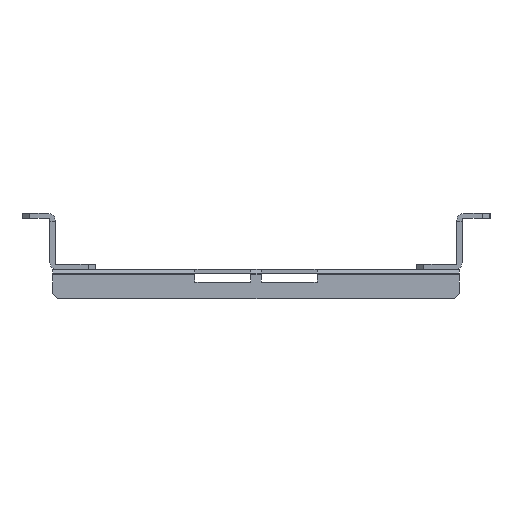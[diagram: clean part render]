
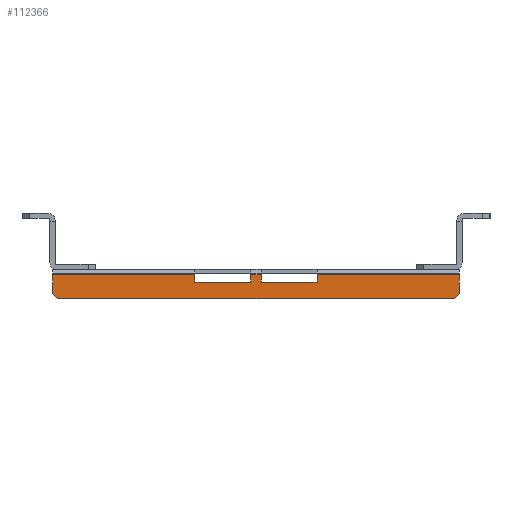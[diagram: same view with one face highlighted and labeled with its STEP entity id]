
A CAD part, front view. The second image highlights one B-rep face of the part: STEP entity #112366.
In plain terms, the highlighted planar face has unit normal (0, -1, 0).
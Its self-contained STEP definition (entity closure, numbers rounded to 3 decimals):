
#105336=CARTESIAN_POINT(' ',(2.,-449.,-2.1));
#105337=VERTEX_POINT(' ',#105336);
#105351=CARTESIAN_POINT(' ',(2.,-449.,-5.));
#105356=DIRECTION(' ',(0.,0.,1.));
#105361=VECTOR(' ',#105356,1.);
#105366=LINE('',#105351,#105361);
#105371=CARTESIAN_POINT(' ',(2.,-449.,-5.));
#105372=VERTEX_POINT(' ',#105371);
#105376=EDGE_CURVE(' ',#105372,#105337,#105366,.T.);
#105726=CARTESIAN_POINT(' ',(-2.,-449.,-5.));
#105727=VERTEX_POINT(' ',#105726);
#105741=CARTESIAN_POINT(' ',(-2.,-449.,-2.1));
#105746=DIRECTION(' ',(0.,0.,-1.));
#105751=VECTOR(' ',#105746,1.);
#105756=LINE('',#105741,#105751);
#105761=CARTESIAN_POINT(' ',(-2.,-449.,-2.1));
#105762=VERTEX_POINT(' ',#105761);
#105766=EDGE_CURVE(' ',#105762,#105727,#105756,.T.);
#110041=CARTESIAN_POINT(' ',(24.,-449.,-2.1));
#110046=DIRECTION(' ',(1.,0.,0.));
#110051=VECTOR(' ',#110046,1.);
#110056=LINE('',#110041,#110051);
#110061=CARTESIAN_POINT(' ',(24.,-449.,-2.1));
#110062=VERTEX_POINT(' ',#110061);
#110066=CARTESIAN_POINT(' ',(80.,-449.,-2.1));
#110067=VERTEX_POINT(' ',#110066);
#110071=EDGE_CURVE(' ',#110062,#110067,#110056,.T.);
#110221=CARTESIAN_POINT(' ',(-24.,-449.,-2.1));
#110222=VERTEX_POINT(' ',#110221);
#110266=CARTESIAN_POINT(' ',(-80.,-449.,-2.1));
#110267=VERTEX_POINT(' ',#110266);
#110281=CARTESIAN_POINT(' ',(-80.,-449.,-2.1));
#110286=DIRECTION(' ',(1.,0.,0.));
#110291=VECTOR(' ',#110286,1.);
#110296=LINE('',#110281,#110291);
#110301=EDGE_CURVE(' ',#110267,#110222,#110296,.T.);
#110436=CARTESIAN_POINT(' ',(-2.,-449.,-2.1));
#110441=DIRECTION(' ',(1.,0.,0.));
#110446=VECTOR(' ',#110441,1.);
#110451=LINE('',#110436,#110446);
#110456=EDGE_CURVE(' ',#105762,#105337,#110451,.T.);
#111141=CARTESIAN_POINT(' ',(24.,-449.,-2.1));
#111146=DIRECTION(' ',(0.,0.,-1.));
#111151=VECTOR(' ',#111146,1.);
#111156=LINE('',#111141,#111151);
#111161=CARTESIAN_POINT(' ',(24.,-449.,-5.));
#111162=VERTEX_POINT(' ',#111161);
#111166=EDGE_CURVE(' ',#110062,#111162,#111156,.T.);
#111286=CARTESIAN_POINT(' ',(-24.,-449.,-5.));
#111291=DIRECTION(' ',(0.,0.,1.));
#111296=VECTOR(' ',#111291,1.);
#111301=LINE('',#111286,#111296);
#111306=CARTESIAN_POINT(' ',(-24.,-449.,-5.));
#111307=VERTEX_POINT(' ',#111306);
#111311=EDGE_CURVE(' ',#111307,#110222,#111301,.T.);
#112066=DIRECTION(' ',(-0.,-1.,0.));
#112071=CARTESIAN_POINT(' ',(-80.,-449.,-11.5));
#112076=DIRECTION(' ',(1.,-0.,0.));
#112081=AXIS2_PLACEMENT_3D(' ',#112071,#112066,#112076);
#112086=PLANE('NONE',#112081);
#112091=ORIENTED_EDGE(' ',*,*,#111166,.T.);
#112096=CARTESIAN_POINT(' ',(24.,-449.,-5.));
#112101=DIRECTION(' ',(-1.,0.,0.));
#112106=VECTOR(' ',#112101,1.);
#112111=LINE('',#112096,#112106);
#112116=EDGE_CURVE(' ',#111162,#105372,#112111,.T.);
#112121=ORIENTED_EDGE(' ',*,*,#112116,.T.);
#112126=ORIENTED_EDGE(' ',*,*,#105376,.T.);
#112131=ORIENTED_EDGE(' ',*,*,#110456,.F.);
#112136=ORIENTED_EDGE(' ',*,*,#105766,.T.);
#112141=CARTESIAN_POINT(' ',(-2.,-449.,-5.));
#112146=DIRECTION(' ',(-1.,0.,0.));
#112151=VECTOR(' ',#112146,1.);
#112156=LINE('',#112141,#112151);
#112161=EDGE_CURVE(' ',#105727,#111307,#112156,.T.);
#112166=ORIENTED_EDGE(' ',*,*,#112161,.T.);
#112171=ORIENTED_EDGE(' ',*,*,#111311,.T.);
#112176=ORIENTED_EDGE(' ',*,*,#110301,.F.);
#112181=CARTESIAN_POINT(' ',(-80.,-449.,-2.1));
#112186=DIRECTION(' ',(0.,0.,-1.));
#112191=VECTOR(' ',#112186,1.);
#112196=LINE('',#112181,#112191);
#112201=CARTESIAN_POINT(' ',(-80.,-449.,-9.5));
#112202=VERTEX_POINT(' ',#112201);
#112206=EDGE_CURVE(' ',#110267,#112202,#112196,.T.);
#112211=ORIENTED_EDGE(' ',*,*,#112206,.T.);
#112216=CARTESIAN_POINT(' ',(-80.,-449.,-9.5));
#112221=DIRECTION(' ',(0.707,0.,-0.707));
#112226=VECTOR(' ',#112221,1.);
#112231=LINE('',#112216,#112226);
#112236=CARTESIAN_POINT(' ',(-78.,-449.,-11.5));
#112237=VERTEX_POINT(' ',#112236);
#112241=EDGE_CURVE(' ',#112202,#112237,#112231,.T.);
#112246=ORIENTED_EDGE(' ',*,*,#112241,.T.);
#112251=CARTESIAN_POINT(' ',(-78.,-449.,-11.5));
#112256=DIRECTION(' ',(1.,0.,0.));
#112261=VECTOR(' ',#112256,1.);
#112266=LINE('',#112251,#112261);
#112271=CARTESIAN_POINT(' ',(78.,-449.,-11.5));
#112272=VERTEX_POINT(' ',#112271);
#112276=EDGE_CURVE(' ',#112237,#112272,#112266,.T.);
#112281=ORIENTED_EDGE(' ',*,*,#112276,.T.);
#112286=CARTESIAN_POINT(' ',(78.,-449.,-11.5));
#112291=DIRECTION(' ',(0.707,0.,0.707));
#112296=VECTOR(' ',#112291,1.);
#112301=LINE('',#112286,#112296);
#112306=CARTESIAN_POINT(' ',(80.,-449.,-9.5));
#112307=VERTEX_POINT(' ',#112306);
#112311=EDGE_CURVE(' ',#112272,#112307,#112301,.T.);
#112316=ORIENTED_EDGE(' ',*,*,#112311,.T.);
#112321=CARTESIAN_POINT(' ',(80.,-449.,-9.5));
#112326=DIRECTION(' ',(0.,0.,1.));
#112331=VECTOR(' ',#112326,1.);
#112336=LINE('',#112321,#112331);
#112341=EDGE_CURVE(' ',#112307,#110067,#112336,.T.);
#112346=ORIENTED_EDGE(' ',*,*,#112341,.T.);
#112351=ORIENTED_EDGE(' ',*,*,#110071,.F.);
#112356=EDGE_LOOP(' ',(#112091,#112121,#112126,#112131,#112136,#112166,#112171,#112176,#112211,#112246,#112281,#112316,#112346,#112351));
#112361=FACE_OUTER_BOUND(' ',#112356,.T.);
#112366=ADVANCED_FACE('NONE',(#112361),#112086,.T.);
